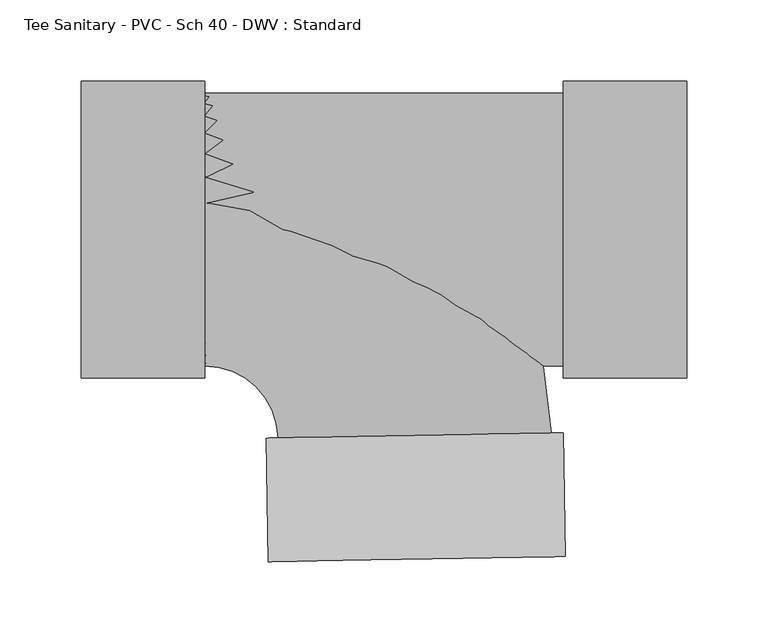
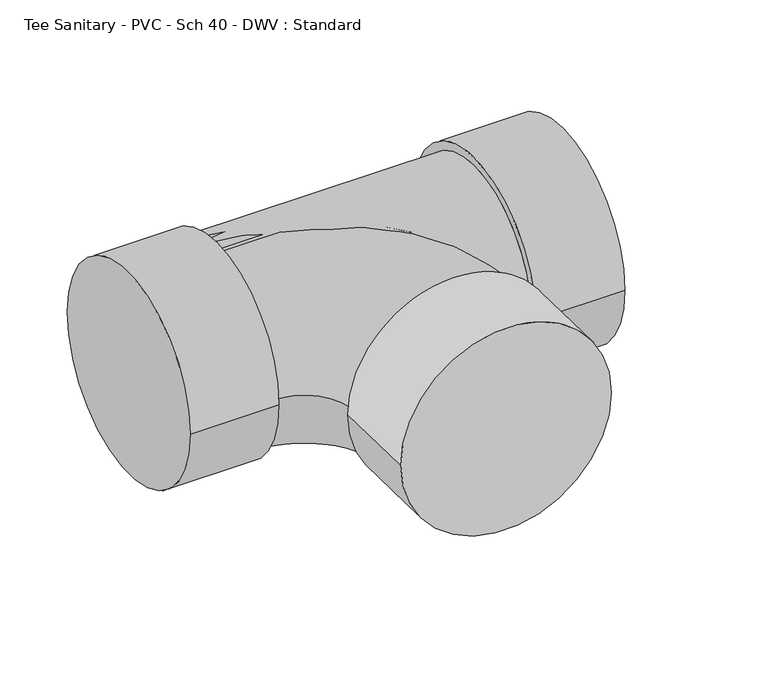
"""IFC4 building model written with IfcOpenShell, lengths in millimetres: pipe fitting geometry, Tee Sanitary - PVC - Sch 40 - DWV : Standard."""

from ifc_helpers import new_model, si_unit, point, frame, origin, place, context, project, spatial, circle_curve, ellipse_curve, trimmed, source, transform, mapped, element, save
from ifc_brep_helpers import plane_surface, cylinder_surface, revolved_surface, advanced_brep


def tee_sanitary_pvc_sch_40_dwv_standard_83125549(model_context):
    return source(origin(), model_context, "Body", "AdvancedBrep", [
        advanced_brep(
        [(-127.0, -84.1375, 0.0), (-127.0, 84.1375, 0.0), (-81.8545101, -128.4832988, 0.0), (86.393618, -125.4761399, 0.0), (95.170966, -201.5314295, 0.0), (-87.9083934, -204.8036724, 0.0), (93.8092336, -125.3435979, 0.0), (-89.2701257, -128.6158408, 0.0)],
        [
            (0, 1, circle_curve(frame((-127.0, 0.0, 0.0), z_axis=(-1.0, 0.0, 0.0), x_axis=(0.0, 1.0, 0.0)), 84.1375)),
            (1, 0, circle_curve(frame((-127.0, 0.0, 0.0), z_axis=(-1.0, 0.0, 0.0), x_axis=(0.0, 1.0, 0.0)), 84.1375)),
            (0, 2, circle_curve(frame((-127.0, -129.2902003, 0.0), z_axis=(0.0, 0.0, -1.0), x_axis=(0.0, 1.0, 0.0)), 45.1527003)),
            (2, 3, circle_curve(frame((2.2695539, -126.9797193, 0.0), z_axis=(-0.017870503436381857, 0.9998403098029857, 0.0), x_axis=(0.9998403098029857, 0.017870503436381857, 0.0)), 84.1375)),
            (3, 1, circle_curve(frame((-127.0, -129.2902003, 0.0), z_axis=(0.0, 0.0, 1.0), x_axis=(0.0, 1.0, 0.0)), 213.4277003)),
            (3, 2, circle_curve(frame((2.2695539, -126.9797193, 0.0), z_axis=(-0.01787050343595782, 0.9998403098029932, 0.0), x_axis=(0.9998403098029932, 0.01787050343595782, 0.0)), 84.1375)),
            (4, 5, circle_curve(frame((3.6312863, -203.167551, 0.0), z_axis=(0.017870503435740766, -0.9998403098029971, 0.0), x_axis=(-0.9998403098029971, -0.017870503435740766, 0.0)), 91.5543)),
            (5, 4, circle_curve(frame((3.6312863, -203.167551, 0.0), z_axis=(0.017870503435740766, -0.9998403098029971, 0.0), x_axis=(-0.9998403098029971, -0.017870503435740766, 0.0)), 91.5543)),
            (6, 7, circle_curve(frame((2.2695539, -126.9797193, 0.0), z_axis=(-0.017870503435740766, 0.9998403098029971, 0.0), x_axis=(-0.9998403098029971, -0.017870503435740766, 0.0)), 91.5543)),
            (7, 6, circle_curve(frame((2.2695539, -126.9797193, 0.0), z_axis=(-0.017870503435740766, 0.9998403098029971, 0.0), x_axis=(-0.9998403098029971, -0.017870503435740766, 0.0)), 91.5543)),
            (4, 6),
            (7, 5),
        ],
        [
            plane_surface(frame((-127.0, 0.0, 0.0), z_axis=(-1.0, 0.0, 0.0), x_axis=(0.0, 0.0, 1.0))),
            revolved_surface(trimmed(ellipse_curve(frame((-127.0, 0.0, 0.0), z_axis=(-1.0, 0.0, 0.0), x_axis=(0.0, 1.0, 0.0)), 84.1375, 84.1375), [point((-127.0, -84.1375, 0.0))], [point((-127.0, 84.1375, 0.0))], True, "CARTESIAN"), (-127.0, -129.2902003, 0.0), (0.0, 0.0, -1.0)),
            revolved_surface(trimmed(ellipse_curve(frame((-127.0, 0.0, 0.0), z_axis=(-1.0, 0.0, 0.0), x_axis=(0.0, 1.0, 0.0)), 84.1375, 84.1375), [point((-127.0, 84.1375, 0.0))], [point((-127.0, -84.1375, 0.0))], True, "CARTESIAN"), (-127.0, -129.2902003, 0.0), (0.0, 0.0, -1.0)),
            plane_surface(frame((3.6312863, -203.167551, 0.0), z_axis=(0.01787050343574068, -0.9998403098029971, 0.0), x_axis=(0.0, 0.0, 1.0))),
            plane_surface(frame((2.2695539, -126.9797193, 0.0), z_axis=(-0.017870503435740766, 0.9998403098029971, 0.0), x_axis=(0.0, 0.0, 1.0))),
            cylinder_surface(frame((3.6312863, -203.167551, 0.0), z_axis=(0.017870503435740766, -0.9998403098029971, 0.0), x_axis=(-0.9998403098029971, -0.017870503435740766, 0.0)), 91.5543),
        ],
        [
            (0, [[1, 2]]),
            (1, [[-1, 3, 4, 5]]),
            (2, [[-2, -5, 6, -3]]),
            (3, [[7, 8]]),
            (4, [[9, 10], [-4, -6]]),
            (5, [[-7, 11, -10, 12]]),
            (5, [[-8, -12, -9, -11]]),
        ],
    ),
        advanced_brep(
        [(-127.0, -84.1375, 0.0), (93.8092336, -84.1375, 0.0), (93.8092336, 84.1375, 0.0), (-127.0, 84.1375, 0.0), (93.8092336, -91.5543, 0.0), (93.8092336, 91.5543, 0.0), (170.0092336, -91.5543, 0.0), (170.0092336, 91.5543, 0.0), (-203.2, -91.5543, 0.0), (-203.2, 91.5543, 0.0), (-127.0, -91.5543, 0.0), (-127.0, 91.5543, 0.0)],
        [
            (0, 1),
            (1, 2, circle_curve(frame((93.8092336, 0.0, 0.0), z_axis=(-1.0, 0.0, 0.0), x_axis=(0.0, 1.0, 0.0)), 84.1375)),
            (2, 3),
            (3, 0, circle_curve(frame((-127.0, 0.0, 0.0), z_axis=(1.0, 0.0, 0.0), x_axis=(0.0, 1.0, 0.0)), 84.1375)),
            (0, 3, circle_curve(frame((-127.0, 0.0, 0.0), z_axis=(1.0, 0.0, 0.0), x_axis=(0.0, 1.0, 0.0)), 84.1375)),
            (2, 1, circle_curve(frame((93.8092336, 0.0, 0.0), z_axis=(-1.0, 0.0, 0.0), x_axis=(0.0, 1.0, 0.0)), 84.1375)),
            (4, 5, circle_curve(frame((93.8092336, 0.0, 0.0), z_axis=(-1.0, 0.0, 0.0), x_axis=(0.0, 1.0, 0.0)), 91.5543)),
            (5, 4, circle_curve(frame((93.8092336, 0.0, 0.0), z_axis=(-1.0, 0.0, 0.0), x_axis=(0.0, 1.0, 0.0)), 91.5543)),
            (6, 7, circle_curve(frame((170.0092336, 0.0, 0.0), z_axis=(1.0, 0.0, 0.0), x_axis=(0.0, 1.0, 0.0)), 91.5543)),
            (7, 6, circle_curve(frame((170.0092336, 0.0, 0.0), z_axis=(1.0, 0.0, 0.0), x_axis=(0.0, 1.0, 0.0)), 91.5543)),
            (4, 6),
            (7, 5),
            (8, 9, circle_curve(frame((-203.2, 0.0, 0.0), z_axis=(-1.0, 0.0, 0.0), x_axis=(0.0, 1.0, 0.0)), 91.5543)),
            (9, 8, circle_curve(frame((-203.2, 0.0, 0.0), z_axis=(-1.0, 0.0, 0.0), x_axis=(0.0, 1.0, 0.0)), 91.5543)),
            (10, 11, circle_curve(frame((-127.0, 0.0, 0.0), z_axis=(1.0, 0.0, 0.0), x_axis=(0.0, 1.0, 0.0)), 91.5543)),
            (11, 10, circle_curve(frame((-127.0, 0.0, 0.0), z_axis=(1.0, 0.0, 0.0), x_axis=(0.0, 1.0, 0.0)), 91.5543)),
            (8, 10),
            (11, 9),
        ],
        [
            cylinder_surface(frame((-127.0, 0.0, 0.0), z_axis=(-1.0, 0.0, 0.0), x_axis=(0.0, 1.0, 0.0)), 84.1375),
            plane_surface(frame((93.8092336, 0.0, 0.0), z_axis=(-1.0, 0.0, 0.0), x_axis=(0.0, 0.0, 1.0))),
            plane_surface(frame((170.0092336, 0.0, 0.0), z_axis=(1.0, 0.0, 0.0), x_axis=(0.0, 0.0, 1.0))),
            cylinder_surface(frame((93.8092336, 0.0, 0.0), z_axis=(-1.0, 0.0, 0.0), x_axis=(0.0, 1.0, 0.0)), 91.5543),
            plane_surface(frame((-203.2, 0.0, 0.0), z_axis=(-1.0, 0.0, 0.0), x_axis=(0.0, 0.0, 1.0))),
            plane_surface(frame((-127.0, 0.0, 0.0), z_axis=(1.0, 0.0, 0.0), x_axis=(0.0, 0.0, 1.0))),
            cylinder_surface(frame((-203.2, 0.0, 0.0), z_axis=(-1.0, 0.0, 0.0), x_axis=(0.0, 1.0, 0.0)), 91.5543),
        ],
        [
            (0, [[1, 2, 3, 4]]),
            (0, [[-1, 5, -3, 6]]),
            (1, [[7, 8], [-2, -6]]),
            (2, [[9, 10]]),
            (3, [[-7, 11, -10, 12]]),
            (3, [[-8, -12, -9, -11]]),
            (4, [[13, 14]]),
            (5, [[15, 16], [-4, -5]]),
            (6, [[-13, 17, -16, 18]]),
            (6, [[-14, -18, -15, -17]]),
        ],
    ),
    ])


if __name__ == "__main__":
    model = new_model("IFC4")
    model_context = context("Model", 3, world=origin())
    ifc_project = project(units=[si_unit("LENGTHUNIT", "METRE", prefix="MILLI")], contexts=[model_context])
    site = spatial("IfcSite", under=ifc_project)
    building = spatial("IfcBuilding", under=site)
    placement = place(None, origin())
    tee_sanitary_pvc_sch_40_dwv_standard_shape = tee_sanitary_pvc_sch_40_dwv_standard_83125549(model_context)
    element("IfcPipeFitting", 1, ObjectType="Tee Sanitary - PVC - Sch 40 - DWV : Standard", at=placement, inside=building, context=model_context, shape_type="MappedRepresentation", body=[
        mapped(tee_sanitary_pvc_sch_40_dwv_standard_shape, transform((0.0, 0.0, 0.0), x_axis=(1.0, 0.0, 0.0), y_axis=(0.0, 1.0, 0.0), z_axis=(0.0, 0.0, 1.0))),
    ])
    save(model, "model.ifc")
